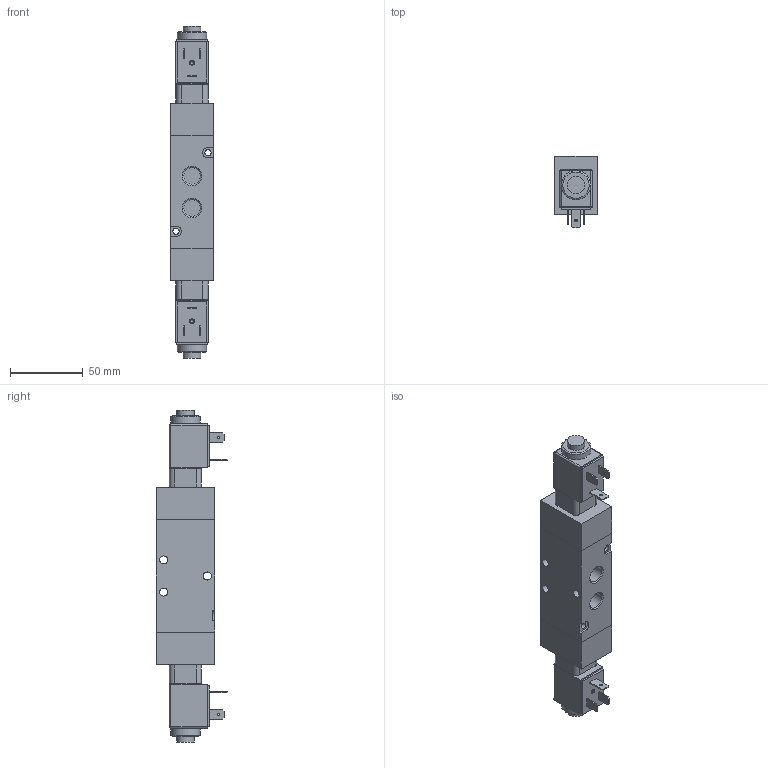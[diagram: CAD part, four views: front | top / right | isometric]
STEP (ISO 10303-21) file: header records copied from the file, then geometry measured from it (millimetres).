
FILE_DESCRIPTION(/* description */ (''),/* implementation_level */ '2;1');
FILE_NAME(/* name */ 'I:\Area Tecnica\Disegni\VARIE-3D\Componenti\T400\T424\T424_52_0_0_B#.stp',/* time_stamp */ '2015-09-23T13:49:05+02:00',/* author */ ('maniean1'),/* organization */ ('Pneumax S.p.A.'),/* preprocessor_version */ 'ST-DEVELOPER v15.2',/* originating_system */ 'Autodesk Inventor 2014',/* authorisation */ '');
FILE_SCHEMA (('AUTOMOTIVE_DESIGN { 1 0 10303 214 3 1 1 }'));
Length unit declared in the file: millimetre
Products named in the file (3): T424_52_0_0_M2; MB; T424_52_0_0_B#
Bounding box: 29.5 x 49 x 228 mm (x, y, z)
Volume: 188311.7 mm3; surface area: 45490 mm2
Topology: 7 solids, 7 shells, 204 faces, 450 edges, 291 vertices
Faces by surface type: plane 127, cylinder 62, cone 11, sphere 4
Full cylindrical faces by diameter (mm): 1.5 x4, 1.6 x2, 2.156 x2, 4.25 x2, 5.5 x3, 7.4 x2, 8 x2, 8.2 x4, 9.8 x2, 10.1 x2, 10.2 x2, 11.445 x5, 12 x2, 13 x2, 13.5 x2, 16.2 x2, 20 x2
Entity records: 4131 total; most frequent: DIRECTION 707, CARTESIAN_POINT 649, ORIENTED_EDGE 558, EDGE_CURVE 279, AXIS2_PLACEMENT_3D 268, EDGE_LOOP 245, VERTEX_POINT 210, LINE 171
